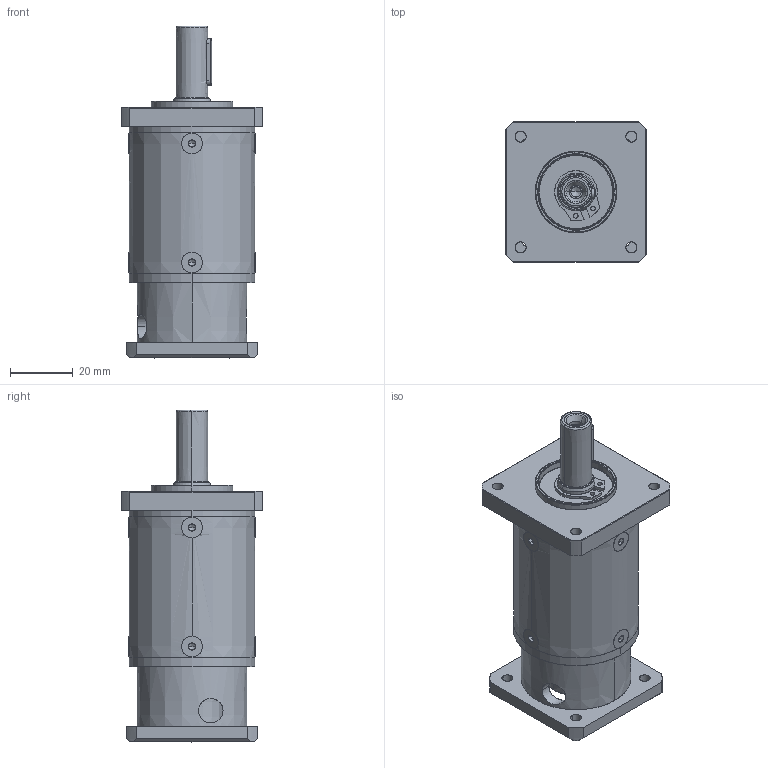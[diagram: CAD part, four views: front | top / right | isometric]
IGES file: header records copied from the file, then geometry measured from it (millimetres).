
Start section: SolidWorks IGES file using analytic representation for surfaces
Global section: file name: C:\TeknicPDM\Remarketed and Private Label Products\Gearboxes\Gearbox Customer Files\GSFL (Newstart PF Series)\GSFL-040-0_ _-N017_-XX Two Stage.IGS; native system: SolidWorks 2020; preprocessor: SolidWorks 2020; author: zeb_koch; date: 250825.152541; units: millimetre
Bounding box: 45 x 45 x 106 mm (x, y, z)
Surface area: 44516.9 mm2 (no closed solid volume)
Topology: 0 solids, 0 shells, 1135 faces, 22353 edges, 22275 vertices
Faces by surface type: bspline 644, revolution 491
